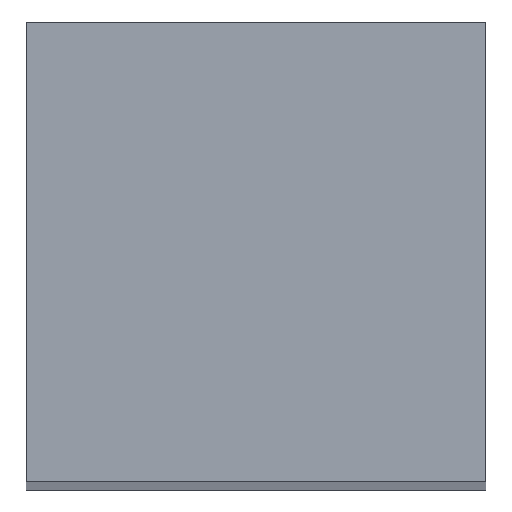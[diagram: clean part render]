
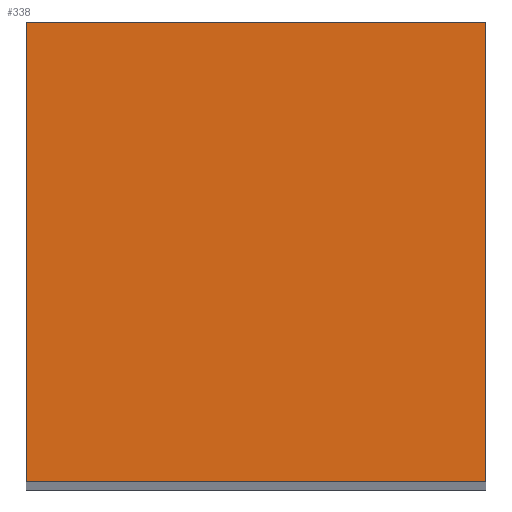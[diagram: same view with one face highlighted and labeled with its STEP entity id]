
A CAD part, top view. The second image highlights one B-rep face of the part: STEP entity #338.
In plain terms, the highlighted planar face has unit normal (0, 0, 1).
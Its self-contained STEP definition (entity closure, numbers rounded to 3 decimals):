
#24 = VERTEX_POINT('',#25);
#25 = CARTESIAN_POINT('',(170.,145.,420.));
#32 = PLANE('',#33);
#33 = AXIS2_PLACEMENT_3D('',#34,#35,#36);
#34 = CARTESIAN_POINT('',(170.,145.,0.));
#35 = DIRECTION('',(1.,0.,0.));
#36 = DIRECTION('',(0.,0.,1.));
#44 = PLANE('',#45);
#45 = AXIS2_PLACEMENT_3D('',#46,#47,#48);
#46 = CARTESIAN_POINT('',(170.,145.,0.));
#47 = DIRECTION('',(0.,1.,0.));
#48 = DIRECTION('',(0.,0.,1.));
#85 = VERTEX_POINT('',#86);
#86 = CARTESIAN_POINT('',(170.,185.,420.));
#100 = PLANE('',#101);
#101 = AXIS2_PLACEMENT_3D('',#102,#103,#104);
#102 = CARTESIAN_POINT('',(170.,185.,0.));
#103 = DIRECTION('',(0.,1.,0.));
#104 = DIRECTION('',(0.,0.,1.));
#112 = EDGE_CURVE('',#24,#85,#113,.T.);
#113 = SURFACE_CURVE('',#114,(#118,#125),.PCURVE_S1.);
#114 = LINE('',#115,#116);
#115 = CARTESIAN_POINT('',(170.,145.,420.));
#116 = VECTOR('',#117,1.);
#117 = DIRECTION('',(0.,1.,0.));
#118 = PCURVE('',#32,#119);
#119 = DEFINITIONAL_REPRESENTATION('',(#120),#124);
#120 = LINE('',#121,#122);
#121 = CARTESIAN_POINT('',(420.,0.));
#122 = VECTOR('',#123,1.);
#123 = DIRECTION('',(0.,-1.));
#124 = ( GEOMETRIC_REPRESENTATION_CONTEXT(2) 
PARAMETRIC_REPRESENTATION_CONTEXT() REPRESENTATION_CONTEXT('2D SPACE',''
  ) );
#125 = PCURVE('',#126,#131);
#126 = PLANE('',#127);
#127 = AXIS2_PLACEMENT_3D('',#128,#129,#130);
#128 = CARTESIAN_POINT('',(170.,145.,420.));
#129 = DIRECTION('',(0.,0.,1.));
#130 = DIRECTION('',(1.,0.,0.));
#131 = DEFINITIONAL_REPRESENTATION('',(#132),#136);
#132 = LINE('',#133,#134);
#133 = CARTESIAN_POINT('',(0.,0.));
#134 = VECTOR('',#135,1.);
#135 = DIRECTION('',(0.,1.));
#136 = ( GEOMETRIC_REPRESENTATION_CONTEXT(2) 
PARAMETRIC_REPRESENTATION_CONTEXT() REPRESENTATION_CONTEXT('2D SPACE',''
  ) );
#144 = VERTEX_POINT('',#145);
#145 = CARTESIAN_POINT('',(210.,145.,420.));
#152 = PLANE('',#153);
#153 = AXIS2_PLACEMENT_3D('',#154,#155,#156);
#154 = CARTESIAN_POINT('',(210.,145.,0.));
#155 = DIRECTION('',(1.,0.,0.));
#156 = DIRECTION('',(0.,0.,1.));
#195 = VERTEX_POINT('',#196);
#196 = CARTESIAN_POINT('',(210.,185.,420.));
#217 = EDGE_CURVE('',#144,#195,#218,.T.);
#218 = SURFACE_CURVE('',#219,(#223,#230),.PCURVE_S1.);
#219 = LINE('',#220,#221);
#220 = CARTESIAN_POINT('',(210.,145.,420.));
#221 = VECTOR('',#222,1.);
#222 = DIRECTION('',(0.,1.,0.));
#223 = PCURVE('',#152,#224);
#224 = DEFINITIONAL_REPRESENTATION('',(#225),#229);
#225 = LINE('',#226,#227);
#226 = CARTESIAN_POINT('',(420.,0.));
#227 = VECTOR('',#228,1.);
#228 = DIRECTION('',(0.,-1.));
#229 = ( GEOMETRIC_REPRESENTATION_CONTEXT(2) 
PARAMETRIC_REPRESENTATION_CONTEXT() REPRESENTATION_CONTEXT('2D SPACE',''
  ) );
#230 = PCURVE('',#126,#231);
#231 = DEFINITIONAL_REPRESENTATION('',(#232),#236);
#232 = LINE('',#233,#234);
#233 = CARTESIAN_POINT('',(40.,0.));
#234 = VECTOR('',#235,1.);
#235 = DIRECTION('',(0.,1.));
#236 = ( GEOMETRIC_REPRESENTATION_CONTEXT(2) 
PARAMETRIC_REPRESENTATION_CONTEXT() REPRESENTATION_CONTEXT('2D SPACE',''
  ) );
#263 = EDGE_CURVE('',#24,#144,#264,.T.);
#264 = SURFACE_CURVE('',#265,(#269,#276),.PCURVE_S1.);
#265 = LINE('',#266,#267);
#266 = CARTESIAN_POINT('',(170.,145.,420.));
#267 = VECTOR('',#268,1.);
#268 = DIRECTION('',(1.,0.,0.));
#269 = PCURVE('',#44,#270);
#270 = DEFINITIONAL_REPRESENTATION('',(#271),#275);
#271 = LINE('',#272,#273);
#272 = CARTESIAN_POINT('',(420.,0.));
#273 = VECTOR('',#274,1.);
#274 = DIRECTION('',(0.,1.));
#275 = ( GEOMETRIC_REPRESENTATION_CONTEXT(2) 
PARAMETRIC_REPRESENTATION_CONTEXT() REPRESENTATION_CONTEXT('2D SPACE',''
  ) );
#276 = PCURVE('',#126,#277);
#277 = DEFINITIONAL_REPRESENTATION('',(#278),#282);
#278 = LINE('',#279,#280);
#279 = CARTESIAN_POINT('',(0.,0.));
#280 = VECTOR('',#281,1.);
#281 = DIRECTION('',(1.,0.));
#282 = ( GEOMETRIC_REPRESENTATION_CONTEXT(2) 
PARAMETRIC_REPRESENTATION_CONTEXT() REPRESENTATION_CONTEXT('2D SPACE',''
  ) );
#310 = EDGE_CURVE('',#85,#195,#311,.T.);
#311 = SURFACE_CURVE('',#312,(#316,#323),.PCURVE_S1.);
#312 = LINE('',#313,#314);
#313 = CARTESIAN_POINT('',(170.,185.,420.));
#314 = VECTOR('',#315,1.);
#315 = DIRECTION('',(1.,0.,0.));
#316 = PCURVE('',#100,#317);
#317 = DEFINITIONAL_REPRESENTATION('',(#318),#322);
#318 = LINE('',#319,#320);
#319 = CARTESIAN_POINT('',(420.,0.));
#320 = VECTOR('',#321,1.);
#321 = DIRECTION('',(0.,1.));
#322 = ( GEOMETRIC_REPRESENTATION_CONTEXT(2) 
PARAMETRIC_REPRESENTATION_CONTEXT() REPRESENTATION_CONTEXT('2D SPACE',''
  ) );
#323 = PCURVE('',#126,#324);
#324 = DEFINITIONAL_REPRESENTATION('',(#325),#329);
#325 = LINE('',#326,#327);
#326 = CARTESIAN_POINT('',(0.,40.));
#327 = VECTOR('',#328,1.);
#328 = DIRECTION('',(1.,0.));
#329 = ( GEOMETRIC_REPRESENTATION_CONTEXT(2) 
PARAMETRIC_REPRESENTATION_CONTEXT() REPRESENTATION_CONTEXT('2D SPACE',''
  ) );
#338 = ADVANCED_FACE('',(#339),#126,.T.);
#339 = FACE_BOUND('',#340,.T.);
#340 = EDGE_LOOP('',(#341,#342,#343,#344));
#341 = ORIENTED_EDGE('',*,*,#112,.F.);
#342 = ORIENTED_EDGE('',*,*,#263,.T.);
#343 = ORIENTED_EDGE('',*,*,#217,.T.);
#344 = ORIENTED_EDGE('',*,*,#310,.F.);
